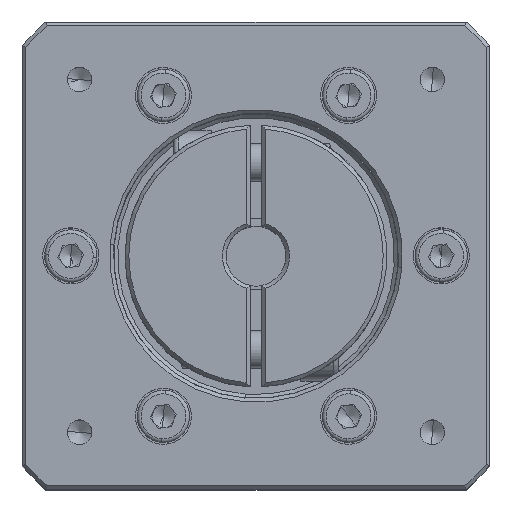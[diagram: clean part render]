
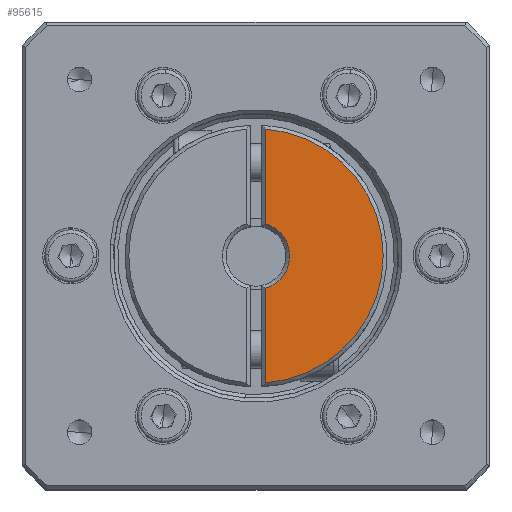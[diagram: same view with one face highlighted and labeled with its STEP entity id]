
A CAD part, top view. The second image highlights one B-rep face of the part: STEP entity #95615.
In plain terms, the highlighted planar face has unit normal (0, 0, 1).
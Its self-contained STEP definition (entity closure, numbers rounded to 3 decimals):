
#3118 = AXIS2_PLACEMENT_3D ( 'NONE', #6499, #45800, #46483 ) ;
#3842 = EDGE_CURVE ( 'NONE', #12668, #67321, #93253, .T. ) ;
#6499 = CARTESIAN_POINT ( 'NONE',  ( -31.017, 23.414, 2.468 ) ) ;
#10006 = EDGE_LOOP ( 'NONE', ( #91024, #31868, #97358, #30322 ) ) ;
#12668 = VERTEX_POINT ( 'NONE', #28420 ) ;
#13434 = DIRECTION ( 'NONE',  ( 0.997, -0.078, 0. ) ) ;
#14460 = PLANE ( 'NONE',  #64277 ) ;
#15286 = EDGE_CURVE ( 'NONE', #12668, #99317, #81386, .T. ) ;
#16783 = CARTESIAN_POINT ( 'NONE',  ( -29.767, 6.46, 2.468 ) ) ;
#20332 = CARTESIAN_POINT ( 'NONE',  ( -29.767, 19.091, 2.468 ) ) ;
#20666 = DIRECTION ( 'NONE',  ( 0., -1., 0. ) ) ;
#22354 = CARTESIAN_POINT ( 'NONE',  ( -31.017, 5.914, 2.468 ) ) ;
#24364 = DIRECTION ( 'NONE',  ( 0., -1., 0. ) ) ;
#24509 = CARTESIAN_POINT ( 'NONE',  ( -29.767, 27.737, 2.468 ) ) ;
#28420 = CARTESIAN_POINT ( 'NONE',  ( -29.767, 40.368, 2.468 ) ) ;
#30322 = ORIENTED_EDGE ( 'NONE', *, *, #43470, .T. ) ;
#31868 = ORIENTED_EDGE ( 'NONE', *, *, #15286, .T. ) ;
#39810 = CARTESIAN_POINT ( 'NONE',  ( -31.017, 23.414, 2.468 ) ) ;
#43470 = EDGE_CURVE ( 'NONE', #81146, #67321, #101707, .T. ) ;
#45800 = DIRECTION ( 'NONE',  ( 0., 0., 1. ) ) ;
#46483 = DIRECTION ( 'NONE',  ( 0.078, 0.997, 0. ) ) ;
#54812 = CIRCLE ( 'NONE', #3118, 4.5 ) ;
#59722 = EDGE_CURVE ( 'NONE', #81146, #99317, #54812, .T. ) ;
#60323 = VECTOR ( 'NONE', #24364, 1000. ) ;
#60467 = CARTESIAN_POINT ( 'NONE',  ( -29.767, 19.091, 2.468 ) ) ;
#61410 = DIRECTION ( 'NONE',  ( 0., 0., -1. ) ) ;
#64277 = AXIS2_PLACEMENT_3D ( 'NONE', #22354, #61410, #13434 ) ;
#64483 = CARTESIAN_POINT ( 'NONE',  ( -29.767, 40.368, 2.468 ) ) ;
#67321 = VERTEX_POINT ( 'NONE', #16783 ) ;
#72407 = DIRECTION ( 'NONE',  ( 0., 0., -1. ) ) ;
#80750 = VECTOR ( 'NONE', #20666, 1000. ) ;
#81146 = VERTEX_POINT ( 'NONE', #60467 ) ;
#81386 = LINE ( 'NONE', #64483, #60323 ) ;
#83701 = AXIS2_PLACEMENT_3D ( 'NONE', #39810, #72407, #87590 ) ;
#87590 = DIRECTION ( 'NONE',  ( -0.078, -0.997, 0. ) ) ;
#89092 = FACE_OUTER_BOUND ( 'NONE', #10006, .T. ) ;
#91024 = ORIENTED_EDGE ( 'NONE', *, *, #3842, .F. ) ;
#93253 = CIRCLE ( 'NONE', #83701, 17. ) ;
#95615 = ADVANCED_FACE ( 'NONE', ( #89092 ), #14460, .F. ) ;
#97358 = ORIENTED_EDGE ( 'NONE', *, *, #59722, .F. ) ;
#99317 = VERTEX_POINT ( 'NONE', #24509 ) ;
#101707 = LINE ( 'NONE', #20332, #80750 ) ;
